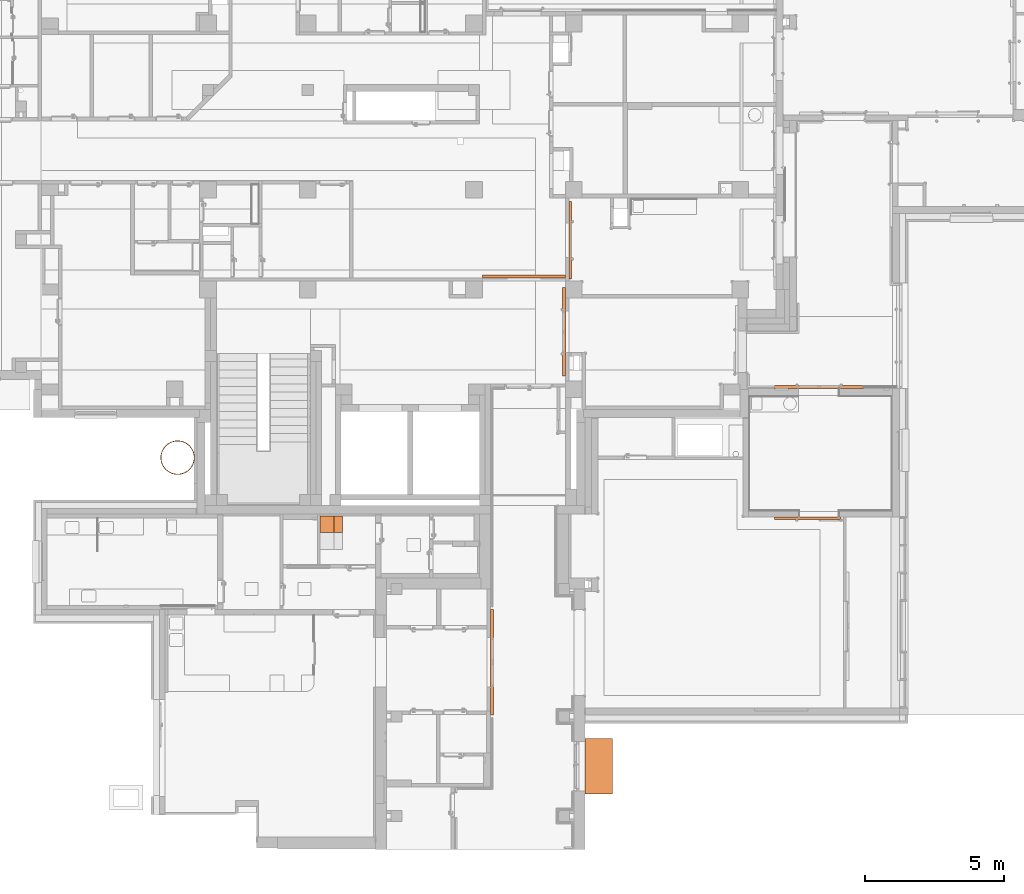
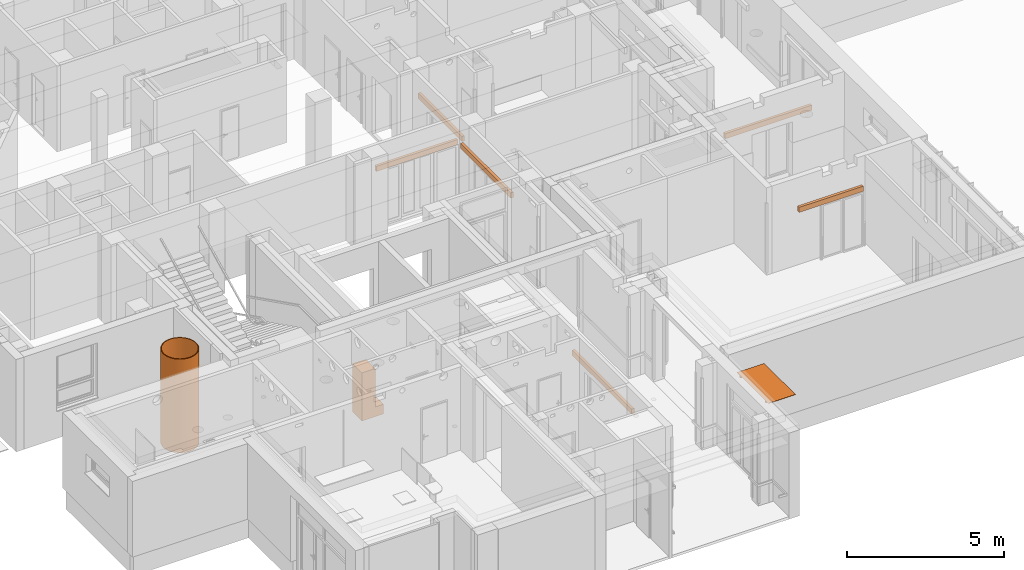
# One storey, part 138 of 140: 9 proxies, 1 element without a shape of its own.
"""IFC4 building model written with IfcOpenShell, lengths in metres."""

import ifcopenshell
import ifcopenshell.guid

model = None  # the IFC model being written
_history = None  # IfcOwnerHistory: only IFC2X3 demands one
_inside = {}  # id of a spatial element -> (the spatial element, [elements in it])
_under = {}  # id of a project, library or spatial element -> (it, [spatial elements below it])
_declared = {}  # id of a project -> (the project, [libraries it declares])
_typed = {}  # id of a type object -> (the type object, [elements of that type])
_made_of = {}  # id of a material, layer set ... -> (it, [elements and type objects made of it])


def new_model(schema):
    """Start an empty IFC model of exactly this schema.

    Asked for "IFC4X3", IfcOpenShell would pick the latest addendum, in which some entities
    have other attributes; the version numbers below select the first issue.
    IFC2X3 requires an IfcOwnerHistory on every rooted entity: one is made here for all.
    """
    global model, _history
    if schema == "IFC4X3":
        model = ifcopenshell.file(schema_version=(4, 3, 0, 0))
    else:
        model = ifcopenshell.file(schema=schema)
    _inside.clear()
    _under.clear()
    _declared.clear()
    _typed.clear()
    _made_of.clear()
    _history = None
    if model.schema == "IFC2X3":
        org = make("IfcOrganization", Name="unknown")
        user = make(
            "IfcPersonAndOrganization",
            ThePerson=make("IfcPerson", FamilyName="unknown"),
            TheOrganization=org,
        )
        app = make(
            "IfcApplication",
            ApplicationDeveloper=org,
            Version="unknown",
            ApplicationFullName="unknown",
            ApplicationIdentifier="unknown",
        )
        _history = make(
            "IfcOwnerHistory",
            OwningUser=user,
            OwningApplication=app,
            ChangeAction="ADDED",
            CreationDate=0,
        )
    return model


def make(cls, **values):
    """One entity of the class cls with the attributes given. An attribute that is None is left unset."""
    return model.create_entity(
        cls, **{name: value for name, value in values.items() if value is not None}
    )


def entity(cls, *values):
    """Any entity or typed value of the class cls, its attributes in the order of the schema. None: left unset."""
    e = model.create_entity(cls)
    for i, value in enumerate(values):
        if value is not None:
            e[i] = value
    return e


def rooted(cls, **values):
    """An entity with a GlobalId (a new one), such as an element, a storey or a relation."""
    return make(cls, GlobalId=ifcopenshell.guid.new(), OwnerHistory=_history, **values)


def si_unit(unit_type, name, prefix=None):
    """IfcSIUnit, for example si_unit("LENGTHUNIT", "METRE", prefix="MILLI")."""
    return make("IfcSIUnit", UnitType=unit_type, Prefix=prefix, Name=name)


def converted_unit(unit_type, name, factor, base, dimensions=None, offset=None):
    """IfcConversionBasedUnit, such as the inch: factor (a typed value) times the base unit."""
    return make(
        "IfcConversionBasedUnit"
        if offset is None
        else "IfcConversionBasedUnitWithOffset",
        ConversionOffset=offset,
        Dimensions=None
        if dimensions is None
        else entity("IfcDimensionalExponents", *dimensions),
        UnitType=unit_type,
        Name=name,
        ConversionFactor=make(
            "IfcMeasureWithUnit", ValueComponent=factor, UnitComponent=base
        ),
    )


def derived_unit(unit_type, elements):
    """IfcDerivedUnit: a product of units, each with its exponent."""
    return make(
        "IfcDerivedUnit",
        Elements=[
            make("IfcDerivedUnitElement", Unit=unit, Exponent=power)
            for unit, power in elements
        ],
        UnitType=unit_type,
    )


def assignment(units):
    """IfcUnitAssignment: the units of a project."""
    return None if units is None else make("IfcUnitAssignment", Units=units)


def point(xyz):
    """IfcCartesianPoint."""
    return None if xyz is None else make("IfcCartesianPoint", Coordinates=xyz)


def direction(xyz):
    """IfcDirection."""
    return None if xyz is None else make("IfcDirection", DirectionRatios=xyz)


def frame(location, z_axis=None, x_axis=None):
    """IfcAxis2Placement3D, a coordinate frame: its origin and axes. An axis left out is left unset."""
    return make(
        "IfcAxis2Placement3D",
        Location=point(location),
        Axis=direction(z_axis),
        RefDirection=direction(x_axis),
    )


def origin():
    """The frame at (0, 0, 0) with its axes left unset."""
    return frame((0.0, 0.0, 0.0))


def origin_with_axes():
    """The frame at (0, 0, 0) with the z axis (0, 0, 1) and the x axis (1, 0, 0) written out."""
    return frame((0.0, 0.0, 0.0), z_axis=(0.0, 0.0, 1.0), x_axis=(1.0, 0.0, 0.0))


def place(relative_to, where):
    """IfcLocalPlacement: puts the frame where relative to a parent placement (None: the world)."""
    return make(
        "IfcLocalPlacement", PlacementRelTo=relative_to, RelativePlacement=where
    )


def context(
    kind, dimensions, precision=None, world=None, true_north=None, identifier=None
):
    """IfcGeometricRepresentationContext, for example the 3D "Model" context."""
    return make(
        "IfcGeometricRepresentationContext",
        ContextIdentifier=identifier,
        ContextType=kind,
        CoordinateSpaceDimension=dimensions,
        Precision=precision,
        WorldCoordinateSystem=world,
        TrueNorth=true_north,
    )


def subcontext(parent, identifier, kind, view, scale=None):
    """IfcGeometricRepresentationSubContext, for example "Body" below "Model"."""
    return make(
        "IfcGeometricRepresentationSubContext",
        ContextIdentifier=identifier,
        ContextType=kind,
        ParentContext=parent,
        TargetScale=scale,
        TargetView=view,
    )


def project(units=None, contexts=None):
    """IfcProject with its units and contexts."""
    return rooted(
        "IfcProject",
        Name="project",
        RepresentationContexts=contexts,
        UnitsInContext=assignment(units),
    )


def spatial(cls, under=None, at=None, **own):
    """A site, building, storey or space (cls), placed at a placement, below another one or the project."""
    s = rooted(cls, ObjectPlacement=at, **own)
    if under is not None:
        _under.setdefault(under.id(), (under, []))[1].append(s)
    return s


def faces_of(points, faces, orient=None, outer=None):
    """IfcFace entities. A face is a list of loops; a loop is a list of indices into points, from 0.

    orient and outer hold one flag for each loop. By default every Orientation is true, the
    first loop of a face is its IfcFaceOuterBound and the others are IfcFaceBound.
    """
    made = []
    for i, loops in enumerate(faces):
        bounds = []
        for j, loop in enumerate(loops):
            is_outer = j == 0 if outer is None else outer[i][j]
            bounds.append(
                make(
                    "IfcFaceOuterBound" if is_outer else "IfcFaceBound",
                    Bound=make("IfcPolyLoop", Polygon=[points[k] for k in loop]),
                    Orientation=True if orient is None else orient[i][j],
                )
            )
        made.append(make("IfcFace", Bounds=bounds))
    return made


def faceted_brep(points, faces, orient=None, outer=None, voids=None):
    """IfcFacetedBrep: a solid bounded by flat faces; with voids (closed shells), ...WithVoids."""
    shared = [point(p) for p in points]
    hull = make("IfcClosedShell", CfsFaces=faces_of(shared, faces, orient, outer))
    if voids is None:
        return make("IfcFacetedBrep", Outer=hull)
    return make(
        "IfcFacetedBrepWithVoids",
        Outer=hull,
        Voids=[
            make(cls, CfsFaces=faces_of(shared, fs, o, b)) for cls, fs, o, b in voids
        ],
    )


def shape(context_of_items, identifier, shape_type, items):
    """IfcShapeRepresentation: the items that make up one representation, for example the "Body"."""
    return make(
        "IfcShapeRepresentation",
        ContextOfItems=context_of_items,
        RepresentationIdentifier=identifier,
        RepresentationType=shape_type,
        Items=items,
    )


def source(mapping_origin, context_of_items, identifier, shape_type, items):
    """IfcRepresentationMap: a shape defined once, which mapped items show again and again."""
    return make(
        "IfcRepresentationMap",
        MappingOrigin=mapping_origin,
        MappedRepresentation=shape(context_of_items, identifier, shape_type, items),
    )


def transform(
    local_origin,
    x_axis=None,
    y_axis=None,
    z_axis=None,
    scale=None,
    scale2=None,
    scale3=None,
    uniform=True,
):
    """IfcCartesianTransformationOperator3D, or its non-uniform kind. x_axis, y_axis, z_axis: its Axis1, 2, 3."""
    if uniform:
        return make(
            "IfcCartesianTransformationOperator3D",
            Axis1=direction(x_axis),
            Axis2=direction(y_axis),
            LocalOrigin=point(local_origin),
            Scale=scale,
            Axis3=direction(z_axis),
        )
    return make(
        "IfcCartesianTransformationOperator3DnonUniform",
        Axis1=direction(x_axis),
        Axis2=direction(y_axis),
        LocalOrigin=point(local_origin),
        Scale=scale,
        Axis3=direction(z_axis),
        Scale2=scale2,
        Scale3=scale3,
    )


def mapped(mapping_source, mapping_target):
    """IfcMappedItem: shows the shape of a source again, moved by a transform."""
    return make(
        "IfcMappedItem", MappingSource=mapping_source, MappingTarget=mapping_target
    )


def material(Name=None, Category=None):
    """IfcMaterial."""
    return make("IfcMaterial", Name=Name, Category=Category)


def made_of(thing, what):
    """Note that an element or type object is made of a material, layer set ...; save() writes the relation."""
    if what is not None:
        _made_of.setdefault(what.id(), (what, []))[1].append(thing)
    return thing


def element(
    cls,
    number,
    at=None,
    inside=None,
    cuts=None,
    type_object=None,
    material=None,
    context=None,
    identifier="Body",
    shape_type=None,
    held_by="IfcProductDefinitionShape",
    body=None,
    shapes=None,
    **own,
):
    """One element of the class cls, such as IfcWall. Its Tag is "e" and its number.

    at: its placement. inside: the storey or other place that contains it. cuts: it is an
    opening in that element (IfcRelVoidsElement). A single representation is given by context,
    identifier, shape_type and body (its items); several are given by shapes. held_by: the class
    of the entity that holds the representations. save() writes the other relations.
    """
    e = rooted(cls, Tag="e%d" % number, ObjectPlacement=at, **own)
    if body is not None:
        shapes = [shape(context, identifier, shape_type, body)]
    if shapes is not None:
        e.Representation = make(held_by, Representations=shapes)
    if inside is not None:
        _inside.setdefault(inside.id(), (inside, []))[1].append(e)
    if cuts is not None:
        rooted(
            "IfcRelVoidsElement", RelatingBuildingElement=cuts, RelatedOpeningElement=e
        )
    if type_object is not None:
        _typed.setdefault(type_object.id(), (type_object, []))[1].append(e)
    return made_of(e, material)


def aggregate(whole, parts):
    """IfcRelAggregates: a whole, such as a stair, and the parts it consists of."""
    return rooted("IfcRelAggregates", RelatingObject=whole, RelatedObjects=parts)


def save(model, path):
    """Write the relations noted so far, then the file.

    IfcRelAggregates (storeys below a building ...), IfcRelContainedInSpatialStructure (elements
    in a storey), IfcRelDefinesByType, IfcRelAssociatesMaterial and IfcRelDeclares: one each for
    every whole, place, type object, material and project.
    """
    for whole, parts in _under.values():
        aggregate(whole, parts)
    for where, things in _inside.values():
        rooted(
            "IfcRelContainedInSpatialStructure",
            RelatedElements=things,
            RelatingStructure=where,
        )
    for kind, things in _typed.values():
        rooted("IfcRelDefinesByType", RelatedObjects=things, RelatingType=kind)
    for what, things in _made_of.values():
        rooted("IfcRelAssociatesMaterial", RelatedObjects=things, RelatingMaterial=what)
    for by, libraries in _declared.values():
        rooted("IfcRelDeclares", RelatingContext=by, RelatedDefinitions=libraries)
    model.write(path)


model = new_model("IFC4")

# Units and contexts
model_context = context("Model", 3, precision=1e-05, world=origin())
body_context = subcontext(model_context, "Body", "Model", "MODEL_VIEW")
ifc_project = project(units=[si_unit("LENGTHUNIT", "METRE"), si_unit("AREAUNIT", "SQUARE_METRE"), si_unit("VOLUMEUNIT", "CUBIC_METRE"), si_unit("MASSUNIT", "GRAM", prefix="KILO"), converted_unit("PLANEANGLEUNIT", "DEGREE", entity("IfcPlaneAngleMeasure", 0.0174532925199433), si_unit("PLANEANGLEUNIT", "RADIAN"), dimensions=[0, 0, 0, 0, 0, 0, 0]), derived_unit("THERMALTRANSMITTANCEUNIT", [(si_unit("POWERUNIT", "WATT"), 1), (si_unit("THERMODYNAMICTEMPERATUREUNIT", "KELVIN"), -1), (si_unit("LENGTHUNIT", "METRE"), -2)]), derived_unit("VOLUMETRICFLOWRATEUNIT", [(si_unit("LENGTHUNIT", "METRE"), 3), (converted_unit("TIMEUNIT", "hour", entity("IfcTimeMeasure", 3600.0), si_unit("TIMEUNIT", "SECOND"), dimensions=[0, 0, 1, 0, 0, 0, 0]), -1), (si_unit("LENGTHUNIT", "METRE"), -1)])], contexts=[model_context])

# Site, building, storey
site_placement = place(None, origin())
site = spatial("IfcSite", under=ifc_project, at=site_placement, Name="3. ASŘ", CompositionType="ELEMENT")
building_placement = place(site_placement, origin())
building = spatial("IfcBuilding", under=site, at=building_placement, Name="Pavilon C", CompositionType="ELEMENT")
storey_placement = place(building_placement, origin())
storey = spatial("IfcBuildingStorey", under=building, at=storey_placement, Name="Půdorys 1.NP", CompositionType="ELEMENT", Elevation=0.0)

# Proxies
shared_shape = source(origin_with_axes(), body_context, "Body", "Brep", [
    faceted_brep([(0.900000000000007, 2.0, 0.08), (1.45519152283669e-14, 2.0, 0.08), (1.45519152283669e-14, 0.0, 0.08), (0.900000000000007, 0.0, 0.08), (1.45519152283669e-14, 2.0, 0.092), (0.900000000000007, 2.0, 0.092), (0.900000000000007, 0.0, 0.092), (1.45519152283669e-14, 0.0, 0.092)], [[[0, 1, 2, 3]], [[4, 5, 6, 7]], [[1, 0, 5, 4]], [[2, 1, 4, 7]], [[3, 2, 7, 6]], [[0, 3, 6, 5]]], orient=[[False], [False], [False], [False], [False], [False]]),
    faceted_brep([(0.77, 0.170000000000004, 0.0), (0.77, 0.230000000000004, 0.0), (7.27595761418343e-15, 0.230000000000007, 0.0), (7.27595761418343e-15, 0.170000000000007, 0.0), (0.77, 0.230000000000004, 0.08), (0.77, 0.170000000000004, 0.08), (7.27595761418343e-15, 0.170000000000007, 0.08), (7.27595761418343e-15, 0.230000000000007, 0.08)], [[[0, 1, 2, 3]], [[4, 5, 6, 7]], [[1, 0, 5, 4]], [[2, 1, 4, 7]], [[3, 2, 7, 6]], [[0, 3, 6, 5]]], orient=[[False], [False], [False], [False], [False], [False]]),
    faceted_brep([(0.77, 1.83, 0.0), (7.27595761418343e-15, 1.83, 0.0), (7.27595761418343e-15, 1.77, 0.0), (0.77, 1.77, 0.0), (0.77, 1.77, 0.08), (7.27595761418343e-15, 1.77, 0.08), (7.27595761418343e-15, 1.83, 0.08), (0.77, 1.83, 0.08)], [[[0, 1, 2, 3]], [[4, 5, 6, 7]], [[3, 4, 7, 0]], [[2, 5, 4, 3]], [[1, 6, 5, 2]], [[0, 7, 6, 1]]], orient=[[False], [False], [False], [False], [False], [False]]),
])
proxy_1_placement = place(storey_placement, frame((44.35, -14.6, 2.97), z_axis=(0.0, 0.0, 1.0), x_axis=(1.11111111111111, 0.0, 0.0)))
element("IfcBuildingElementProxy", 1, at=proxy_1_placement, inside=storey, Name="STŘÍŠKA NAD VCHODEM", context=body_context, shape_type="MappedRepresentation", body=[
    mapped(shared_shape, transform((0.0, 0.0, 0.0), x_axis=(1.0, 0.0, 0.0), y_axis=(0.0, 1.0, 0.0), z_axis=(0.0, 0.0, 1.0), scale=1.11111111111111, scale2=1.0, scale3=1.0, uniform=False)),
])
ifc_material_1 = material(Name="VĚTRACÍ KOMÍN")
proxy_2_placement = place(storey_placement, frame((29.0400003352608, -3.07999999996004, -0.65)))
element("IfcBuildingElementProxy", 2, at=proxy_2_placement, inside=storey, material=ifc_material_1, context=body_context, shape_type="Brep", body=[
    faceted_brep([(0.0254837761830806, 0.790201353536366, 0.0), (0.0143783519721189, 0.747206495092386, 0.0), (0.0064042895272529, 0.703522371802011, 0.0), (0.00160316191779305, 0.65937673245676, 0.0), (4.54747350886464e-16, 0.614999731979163, 0.0), (0.00160316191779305, 0.570622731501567, 0.0), (0.0064042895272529, 0.526477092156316, 0.0), (0.0143783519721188, 0.482792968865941, 0.0), (0.0254837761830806, 0.439798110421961, 0.0), (0.039662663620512, 0.39771667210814, 0.0), (0.0568410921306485, 0.356768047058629, 0.0), (0.0769295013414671, 0.317165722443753, 0.0), (0.0998231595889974, 0.279116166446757, 0.0), (0.125402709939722, 0.242817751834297, 0.0), (0.153534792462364, 0.208459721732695, 0.0), (0.184072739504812, 0.176221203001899, 0.0), (0.216857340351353, 0.146270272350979, 0.0), (0.251717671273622, 0.118763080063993, 0.0), (0.288471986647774, 0.0938430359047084, 0.0), (0.326928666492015, 0.0716400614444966, 0.0), (0.366887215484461, 0.0522699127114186, 0.0), (0.408139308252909, 0.0358335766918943, 0.0), (0.450469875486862, 0.0224167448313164, 0.0), (0.493658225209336, 0.0120893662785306, 0.0), (0.537479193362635, 0.00490528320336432, 0.0), (0.581704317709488, 0.00090195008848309, 0.0), (0.62610302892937, 0.000100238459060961, 0.0), (0.670443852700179, 0.00250432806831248, 0.0), (0.714495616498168, 0.00810168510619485, 0.0), (0.758028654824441, 0.0168631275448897, 0.0), (0.800816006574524, 0.0287429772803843, 0.0), (0.842634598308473, 0.0436792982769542, 0.0), (0.883266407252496, 0.0615942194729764, 0.0), (0.922499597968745, 0.0823943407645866, 0.0), (0.960129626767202, 0.105971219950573, 0.0), (0.995960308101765, 0.132201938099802, 0.0), (1.02980483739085, 0.160949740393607, 0.0), (1.06148676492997, 0.192064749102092, 0.0), (1.09084091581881, 0.225384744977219, 0.0), (1.11771425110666, 0.260736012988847, 0.0), (1.14196666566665, 0.297934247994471, 0.0), (1.16347171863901, 0.33678551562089, 0.0), (1.18211729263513, 0.377087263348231, 0.0), (1.19780617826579, 0.418629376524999, 0.0), (1.21045658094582, 0.461195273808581, 0.0), (1.22000254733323, 0.504563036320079, 0.0), (1.22639430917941, 0.548506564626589, 0.0), (1.2295985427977, 0.592796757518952, 0.0), (1.22999946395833, 0.614999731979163, 0.0), (1.2295985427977, 0.637202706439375, 0.0), (1.22639430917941, 0.681492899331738, 0.0), (1.22000254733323, 0.725436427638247, 0.0), (1.21045658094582, 0.768804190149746, 0.0), (1.19780617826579, 0.811370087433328, 0.0), (1.18211729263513, 0.852912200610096, 0.0), (1.16347171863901, 0.893213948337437, 0.0), (1.14196666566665, 0.932065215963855, 0.0), (1.11771425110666, 0.96926345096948, 0.0), (1.09084091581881, 1.00461471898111, 0.0), (1.06148676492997, 1.03793471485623, 0.0), (1.02980483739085, 1.06904972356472, 0.0), (0.995960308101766, 1.09779752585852, 0.0), (0.960129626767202, 1.12402824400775, 0.0), (0.922499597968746, 1.14760512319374, 0.0), (0.883266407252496, 1.16840524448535, 0.0), (0.842634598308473, 1.18632016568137, 0.0), (0.800816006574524, 1.20125648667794, 0.0), (0.758028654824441, 1.21313633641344, 0.0), (0.714495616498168, 1.22189777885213, 0.0), (0.67044385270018, 1.22749513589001, 0.0), (0.62610302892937, 1.22989922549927, 0.0), (0.581704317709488, 1.22909751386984, 0.0), (0.537479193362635, 1.22509418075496, 0.0), (0.493658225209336, 1.2179100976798, 0.0), (0.450469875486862, 1.20758271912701, 0.0), (0.408139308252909, 1.19416588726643, 0.0), (0.366887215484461, 1.17772955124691, 0.0), (0.326928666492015, 1.15835940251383, 0.0), (0.288471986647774, 1.13615642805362, 0.0), (0.251717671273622, 1.11123638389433, 0.0), (0.216857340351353, 1.08372919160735, 0.0), (0.184072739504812, 1.05377826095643, 0.0), (0.153534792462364, 1.02153974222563, 0.0), (0.125402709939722, 0.987181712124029, 0.0), (0.0998231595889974, 0.95088329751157, 0.0), (0.0769295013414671, 0.912833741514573, 0.0), (0.0568410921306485, 0.873231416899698, 0.0), (0.039662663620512, 0.832282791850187, 0.0), (1.13665376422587, 0.886896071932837, 0.0), (1.15530944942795, 0.847628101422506, 0.0), (1.17101415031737, 0.807089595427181, 0.0), (1.18368209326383, 0.765501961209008, 0.0), (1.19324409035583, 0.723092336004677, 0.0), (1.19964791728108, 0.680092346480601, 0.0), (1.20285859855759, 0.636736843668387, 0.0), (1.20326034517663, 0.614999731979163, 0.0), (1.20285859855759, 0.593262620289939, 0.0), (1.19964791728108, 0.549907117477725, 0.0), (1.19324409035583, 0.506907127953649, 0.0), (1.18368209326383, 0.464497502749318, 0.0), (1.17101415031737, 0.422909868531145, 0.0), (1.15530944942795, 0.382371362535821, 0.0), (1.13665376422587, 0.34310339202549, 0.0), (1.11514898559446, 0.305320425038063, 0.0), (1.09091256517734, 0.269228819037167, 0.0), (1.06407687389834, 0.235025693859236, 0.0), (1.03478847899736, 0.20289785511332, 0.0), (1.00320734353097, 0.173020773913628, 0.0), (0.969505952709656, 0.14555762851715, 0.0), (0.93386837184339, 0.120658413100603, 0.0), (0.896489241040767, 0.0984591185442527, 0.0), (0.85757271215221, 0.0790809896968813, 0.0), (0.817331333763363, 0.0626298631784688, 0.0), (0.775984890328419, 0.0491955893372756, 0.0), (0.733759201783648, 0.0388515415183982, 0.0), (0.690884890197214, 0.0316542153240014, 0.0), (0.647596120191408, 0.0276429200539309, 0.0), (0.604129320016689, 0.0268395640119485, 0.0), (0.560721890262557, 0.0292485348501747, 0.0), (0.51761090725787, 0.0348566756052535, 0.0), (0.475031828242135, 0.0436333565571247, 0.0), (0.43321720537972, 0.0555306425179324, 0.0), (0.392395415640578, 0.0704835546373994, 0.0), (0.352789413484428, 0.0884104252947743, 0.0), (0.314615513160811, 0.109213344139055, 0.0), (0.278082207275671, 0.132778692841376, 0.0), (0.243389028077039, 0.158977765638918, 0.0), (0.210725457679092, 0.187667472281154, 0.0), (0.180269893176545, 0.21869111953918, 0.0), (0.152188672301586, 0.25187926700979, 0.0), (0.126635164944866, 0.287050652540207, 0.0), (0.103748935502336, 0.324013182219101, 0.0), (0.0836549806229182, 0.362564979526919, 0.0), (0.0664630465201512, 0.402495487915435, 0.0), (0.0522670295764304, 0.443586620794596, 0.0), (0.0411444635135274, 0.485613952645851, 0.0), (0.0331560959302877, 0.528347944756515, 0.0), (0.0283455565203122, 0.571555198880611, 0.0), (0.0267391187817, 0.614999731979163, 0.0), (0.0283455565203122, 0.658444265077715, 0.0), (0.0331560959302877, 0.701651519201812, 0.0), (0.0411444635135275, 0.744385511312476, 0.0), (0.0522670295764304, 0.786412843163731, 0.0), (0.0664630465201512, 0.827503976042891, 0.0), (0.0836549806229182, 0.867434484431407, 0.0), (0.103748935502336, 0.905986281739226, 0.0), (0.126635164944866, 0.942948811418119, 0.0), (0.152188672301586, 0.978120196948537, 0.0), (0.180269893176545, 1.01130834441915, 0.0), (0.210725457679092, 1.04233199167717, 0.0), (0.243389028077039, 1.07102169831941, 0.0), (0.27808220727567, 1.09722077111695, 0.0), (0.314615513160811, 1.12078611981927, 0.0), (0.352789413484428, 1.14158903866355, 0.0), (0.392395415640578, 1.15951590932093, 0.0), (0.43321720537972, 1.17446882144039, 0.0), (0.475031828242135, 1.1863661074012, 0.0), (0.517610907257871, 1.19514278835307, 0.0), (0.560721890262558, 1.20075092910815, 0.0), (0.604129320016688, 1.20315989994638, 0.0), (0.647596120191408, 1.2023565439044, 0.0), (0.690884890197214, 1.19834524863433, 0.0), (0.733759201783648, 1.19114792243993, 0.0), (0.775984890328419, 1.18080387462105, 0.0), (0.817331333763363, 1.16736960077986, 0.0), (0.85757271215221, 1.15091847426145, 0.0), (0.896489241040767, 1.13154034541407, 0.0), (0.93386837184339, 1.10934105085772, 0.0), (0.969505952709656, 1.08444183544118, 0.0), (1.00320734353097, 1.0569786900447, 0.0), (1.03478847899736, 1.02710160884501, 0.0), (1.06407687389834, 0.994973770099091, 0.0), (1.09091256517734, 0.96077064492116, 0.0), (1.11514898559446, 0.924679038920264, 0.0), (1.22999946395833, 0.614999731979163, 3.65), (1.2295985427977, 0.637202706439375, 3.65), (4.54747350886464e-16, 0.614999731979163, 3.65), (0.00160316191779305, 0.570622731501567, 3.65), (0.0064042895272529, 0.526477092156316, 3.65), (0.0143783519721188, 0.482792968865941, 3.65), (0.0254837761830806, 0.439798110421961, 3.65), (0.039662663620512, 0.39771667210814, 3.65), (0.0568410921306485, 0.356768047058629, 3.65), (0.0769295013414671, 0.317165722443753, 3.65), (0.0998231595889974, 0.279116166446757, 3.65), (0.125402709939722, 0.242817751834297, 3.65), (0.153534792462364, 0.208459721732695, 3.65), (0.184072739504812, 0.176221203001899, 3.65), (0.216857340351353, 0.146270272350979, 3.65), (0.251717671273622, 0.118763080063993, 3.65), (0.288471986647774, 0.0938430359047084, 3.65), (0.326928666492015, 0.0716400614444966, 3.65), (0.366887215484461, 0.0522699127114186, 3.65), (0.408139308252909, 0.0358335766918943, 3.65), (0.450469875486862, 0.0224167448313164, 3.65), (0.493658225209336, 0.0120893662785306, 3.65), (0.537479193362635, 0.00490528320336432, 3.65), (0.581704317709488, 0.00090195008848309, 3.65), (0.62610302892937, 0.000100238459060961, 3.65), (0.670443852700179, 0.00250432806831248, 3.65), (0.714495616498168, 0.00810168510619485, 3.65), (0.758028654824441, 0.0168631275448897, 3.65), (0.800816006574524, 0.0287429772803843, 3.65), (0.842634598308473, 0.0436792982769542, 3.65), (0.883266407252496, 0.0615942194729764, 3.65), (0.922499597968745, 0.0823943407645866, 3.65), (0.960129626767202, 0.105971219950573, 3.65), (0.995960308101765, 0.132201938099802, 3.65), (1.02980483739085, 0.160949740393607, 3.65), (1.06148676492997, 0.192064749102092, 3.65), (1.09084091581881, 0.225384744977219, 3.65), (1.11771425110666, 0.260736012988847, 3.65), (1.14196666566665, 0.297934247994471, 3.65), (1.16347171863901, 0.33678551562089, 3.65), (1.18211729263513, 0.377087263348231, 3.65), (1.19780617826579, 0.418629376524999, 3.65), (1.21045658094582, 0.461195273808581, 3.65), (1.22000254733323, 0.504563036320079, 3.65), (1.22639430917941, 0.548506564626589, 3.65), (1.2295985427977, 0.592796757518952, 3.65), (1.22639430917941, 0.681492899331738, 3.65), (1.22000254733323, 0.725436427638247, 3.65), (1.21045658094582, 0.768804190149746, 3.65), (1.19780617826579, 0.811370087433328, 3.65), (1.18211729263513, 0.852912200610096, 3.65), (1.16347171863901, 0.893213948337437, 3.65), (1.14196666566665, 0.932065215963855, 3.65), (1.11771425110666, 0.96926345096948, 3.65), (1.09084091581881, 1.00461471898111, 3.65), (1.06148676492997, 1.03793471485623, 3.65), (1.02980483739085, 1.06904972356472, 3.65), (0.995960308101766, 1.09779752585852, 3.65), (0.960129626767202, 1.12402824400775, 3.65), (0.922499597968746, 1.14760512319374, 3.65), (0.883266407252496, 1.16840524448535, 3.65), (0.842634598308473, 1.18632016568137, 3.65), (0.800816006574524, 1.20125648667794, 3.65), (0.758028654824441, 1.21313633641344, 3.65), (0.714495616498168, 1.22189777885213, 3.65), (0.67044385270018, 1.22749513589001, 3.65), (0.62610302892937, 1.22989922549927, 3.65), (0.581704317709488, 1.22909751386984, 3.65), (0.537479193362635, 1.22509418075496, 3.65), (0.493658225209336, 1.2179100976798, 3.65), (0.450469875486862, 1.20758271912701, 3.65), (0.408139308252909, 1.19416588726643, 3.65), (0.366887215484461, 1.17772955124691, 3.65), (0.326928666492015, 1.15835940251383, 3.65), (0.288471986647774, 1.13615642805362, 3.65), (0.251717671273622, 1.11123638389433, 3.65), (0.216857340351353, 1.08372919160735, 3.65), (0.184072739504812, 1.05377826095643, 3.65), (0.153534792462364, 1.02153974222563, 3.65), (0.125402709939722, 0.987181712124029, 3.65), (0.0998231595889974, 0.95088329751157, 3.65), (0.0769295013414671, 0.912833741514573, 3.65), (0.0568410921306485, 0.873231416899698, 3.65), (0.039662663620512, 0.832282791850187, 3.65), (0.0254837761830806, 0.790201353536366, 3.65), (0.0143783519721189, 0.747206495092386, 3.65), (0.0064042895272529, 0.703522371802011, 3.65), (0.00160316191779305, 0.65937673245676, 3.65), (1.20326034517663, 0.614999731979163, 3.65), (1.20285859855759, 0.593262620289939, 3.65), (0.0267391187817, 0.614999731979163, 3.65), (0.0283455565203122, 0.658444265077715, 3.65), (0.0331560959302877, 0.701651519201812, 3.65), (0.0411444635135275, 0.744385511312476, 3.65), (0.0522670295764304, 0.786412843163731, 3.65), (0.0664630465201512, 0.827503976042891, 3.65), (0.0836549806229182, 0.867434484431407, 3.65), (0.103748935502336, 0.905986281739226, 3.65), (0.126635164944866, 0.942948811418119, 3.65), (0.152188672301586, 0.978120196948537, 3.65), (0.180269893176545, 1.01130834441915, 3.65), (0.210725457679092, 1.04233199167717, 3.65), (0.243389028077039, 1.07102169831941, 3.65), (0.27808220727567, 1.09722077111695, 3.65), (0.314615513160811, 1.12078611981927, 3.65), (0.352789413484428, 1.14158903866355, 3.65), (0.392395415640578, 1.15951590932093, 3.65), (0.43321720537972, 1.17446882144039, 3.65), (0.475031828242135, 1.1863661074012, 3.65), (0.517610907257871, 1.19514278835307, 3.65), (0.560721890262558, 1.20075092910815, 3.65), (0.604129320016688, 1.20315989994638, 3.65), (0.647596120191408, 1.2023565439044, 3.65), (0.690884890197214, 1.19834524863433, 3.65), (0.733759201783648, 1.19114792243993, 3.65), (0.775984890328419, 1.18080387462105, 3.65), (0.817331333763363, 1.16736960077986, 3.65), (0.85757271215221, 1.15091847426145, 3.65), (0.896489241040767, 1.13154034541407, 3.65), (0.93386837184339, 1.10934105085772, 3.65), (0.969505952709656, 1.08444183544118, 3.65), (1.00320734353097, 1.0569786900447, 3.65), (1.03478847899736, 1.02710160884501, 3.65), (1.06407687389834, 0.994973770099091, 3.65), (1.09091256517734, 0.96077064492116, 3.65), (1.11514898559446, 0.924679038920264, 3.65), (1.13665376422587, 0.886896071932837, 3.65), (1.15530944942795, 0.847628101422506, 3.65), (1.17101415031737, 0.807089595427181, 3.65), (1.18368209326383, 0.765501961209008, 3.65), (1.19324409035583, 0.723092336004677, 3.65), (1.19964791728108, 0.680092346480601, 3.65), (1.20285859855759, 0.636736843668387, 3.65), (1.19964791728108, 0.549907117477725, 3.65), (1.19324409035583, 0.506907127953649, 3.65), (1.18368209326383, 0.464497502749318, 3.65), (1.17101415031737, 0.422909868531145, 3.65), (1.15530944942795, 0.382371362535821, 3.65), (1.13665376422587, 0.34310339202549, 3.65), (1.11514898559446, 0.305320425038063, 3.65), (1.09091256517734, 0.269228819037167, 3.65), (1.06407687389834, 0.235025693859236, 3.65), (1.03478847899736, 0.20289785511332, 3.65), (1.00320734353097, 0.173020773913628, 3.65), (0.969505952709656, 0.14555762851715, 3.65), (0.93386837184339, 0.120658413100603, 3.65), (0.896489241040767, 0.0984591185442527, 3.65), (0.85757271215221, 0.0790809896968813, 3.65), (0.817331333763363, 0.0626298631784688, 3.65), (0.775984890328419, 0.0491955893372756, 3.65), (0.733759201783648, 0.0388515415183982, 3.65), (0.690884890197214, 0.0316542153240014, 3.65), (0.647596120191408, 0.0276429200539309, 3.65), (0.604129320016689, 0.0268395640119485, 3.65), (0.560721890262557, 0.0292485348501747, 3.65), (0.51761090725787, 0.0348566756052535, 3.65), (0.475031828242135, 0.0436333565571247, 3.65), (0.43321720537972, 0.0555306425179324, 3.65), (0.392395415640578, 0.0704835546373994, 3.65), (0.352789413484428, 0.0884104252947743, 3.65), (0.314615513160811, 0.109213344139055, 3.65), (0.278082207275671, 0.132778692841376, 3.65), (0.243389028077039, 0.158977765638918, 3.65), (0.210725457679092, 0.187667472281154, 3.65), (0.180269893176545, 0.21869111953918, 3.65), (0.152188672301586, 0.25187926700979, 3.65), (0.126635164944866, 0.287050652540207, 3.65), (0.103748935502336, 0.324013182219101, 3.65), (0.0836549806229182, 0.362564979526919, 3.65), (0.0664630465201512, 0.402495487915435, 3.65), (0.0522670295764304, 0.443586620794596, 3.65), (0.0411444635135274, 0.485613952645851, 3.65), (0.0331560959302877, 0.528347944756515, 3.65), (0.0283455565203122, 0.571555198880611, 3.65)], [[[0, 1, 2, 3, 4, 5, 6, 7, 8, 9, 10, 11, 12, 13, 14, 15, 16, 17, 18, 19, 20, 21, 22, 23, 24, 25, 26, 27, 28, 29, 30, 31, 32, 33, 34, 35, 36, 37, 38, 39, 40, 41, 42, 43, 44, 45, 46, 47, 48, 49, 50, 51, 52, 53, 54, 55, 56, 57, 58, 59, 60, 61, 62, 63, 64, 65, 66, 67, 68, 69, 70, 71, 72, 73, 74, 75, 76, 77, 78, 79, 80, 81, 82, 83, 84, 85, 86, 87], [88, 89, 90, 91, 92, 93, 94, 95, 96, 97, 98, 99, 100, 101, 102, 103, 104, 105, 106, 107, 108, 109, 110, 111, 112, 113, 114, 115, 116, 117, 118, 119, 120, 121, 122, 123, 124, 125, 126, 127, 128, 129, 130, 131, 132, 133, 134, 135, 136, 137, 138, 139, 140, 141, 142, 143, 144, 145, 146, 147, 148, 149, 150, 151, 152, 153, 154, 155, 156, 157, 158, 159, 160, 161, 162, 163, 164, 165, 166, 167, 168, 169, 170, 171, 172, 173]], [[174, 175, 49, 48]], [[4, 176, 177, 5]], [[5, 177, 178, 6]], [[6, 178, 179, 7]], [[7, 179, 180, 8]], [[8, 180, 181, 9]], [[9, 181, 182, 10]], [[10, 182, 183, 11]], [[11, 183, 184, 12]], [[12, 184, 185, 13]], [[13, 185, 186, 14]], [[14, 186, 187, 15]], [[15, 187, 188, 16]], [[16, 188, 189, 17]], [[17, 189, 190, 18]], [[18, 190, 191, 19]], [[19, 191, 192, 20]], [[20, 192, 193, 21]], [[21, 193, 194, 22]], [[22, 194, 195, 23]], [[23, 195, 196, 24]], [[24, 196, 197, 25]], [[25, 197, 198, 26]], [[26, 198, 199, 27]], [[27, 199, 200, 28]], [[28, 200, 201, 29]], [[29, 201, 202, 30]], [[30, 202, 203, 31]], [[31, 203, 204, 32]], [[32, 204, 205, 33]], [[33, 205, 206, 34]], [[34, 206, 207, 35]], [[35, 207, 208, 36]], [[36, 208, 209, 37]], [[37, 209, 210, 38]], [[38, 210, 211, 39]], [[39, 211, 212, 40]], [[40, 212, 213, 41]], [[41, 213, 214, 42]], [[42, 214, 215, 43]], [[43, 215, 216, 44]], [[44, 216, 217, 45]], [[45, 217, 218, 46]], [[46, 218, 219, 47]], [[48, 47, 219, 174]], [[49, 175, 220, 50]], [[50, 220, 221, 51]], [[51, 221, 222, 52]], [[52, 222, 223, 53]], [[53, 223, 224, 54]], [[54, 224, 225, 55]], [[55, 225, 226, 56]], [[56, 226, 227, 57]], [[57, 227, 228, 58]], [[58, 228, 229, 59]], [[59, 229, 230, 60]], [[60, 230, 231, 61]], [[61, 231, 232, 62]], [[62, 232, 233, 63]], [[63, 233, 234, 64]], [[64, 234, 235, 65]], [[65, 235, 236, 66]], [[66, 236, 237, 67]], [[67, 237, 238, 68]], [[68, 238, 239, 69]], [[69, 239, 240, 70]], [[70, 240, 241, 71]], [[71, 241, 242, 72]], [[72, 242, 243, 73]], [[73, 243, 244, 74]], [[74, 244, 245, 75]], [[75, 245, 246, 76]], [[76, 246, 247, 77]], [[77, 247, 248, 78]], [[78, 248, 249, 79]], [[79, 249, 250, 80]], [[80, 250, 251, 81]], [[81, 251, 252, 82]], [[82, 252, 253, 83]], [[83, 253, 254, 84]], [[84, 254, 255, 85]], [[85, 255, 256, 86]], [[86, 256, 257, 87]], [[87, 257, 258, 0]], [[0, 258, 259, 1]], [[1, 259, 260, 2]], [[2, 260, 261, 3]], [[3, 261, 176, 4]], [[262, 263, 96, 95]], [[138, 264, 265, 139]], [[139, 265, 266, 140]], [[140, 266, 267, 141]], [[141, 267, 268, 142]], [[142, 268, 269, 143]], [[143, 269, 270, 144]], [[144, 270, 271, 145]], [[145, 271, 272, 146]], [[146, 272, 273, 147]], [[147, 273, 274, 148]], [[148, 274, 275, 149]], [[149, 275, 276, 150]], [[150, 276, 277, 151]], [[151, 277, 278, 152]], [[152, 278, 279, 153]], [[153, 279, 280, 154]], [[154, 280, 281, 155]], [[155, 281, 282, 156]], [[156, 282, 283, 157]], [[157, 283, 284, 158]], [[158, 284, 285, 159]], [[159, 285, 286, 160]], [[160, 286, 287, 161]], [[161, 287, 288, 162]], [[162, 288, 289, 163]], [[163, 289, 290, 164]], [[164, 290, 291, 165]], [[165, 291, 292, 166]], [[166, 292, 293, 167]], [[167, 293, 294, 168]], [[168, 294, 295, 169]], [[169, 295, 296, 170]], [[170, 296, 297, 171]], [[171, 297, 298, 172]], [[172, 298, 299, 173]], [[173, 299, 300, 88]], [[88, 300, 301, 89]], [[89, 301, 302, 90]], [[90, 302, 303, 91]], [[91, 303, 304, 92]], [[92, 304, 305, 93]], [[93, 305, 306, 94]], [[95, 94, 306, 262]], [[96, 263, 307, 97]], [[97, 307, 308, 98]], [[98, 308, 309, 99]], [[99, 309, 310, 100]], [[100, 310, 311, 101]], [[101, 311, 312, 102]], [[102, 312, 313, 103]], [[103, 313, 314, 104]], [[104, 314, 315, 105]], [[105, 315, 316, 106]], [[106, 316, 317, 107]], [[107, 317, 318, 108]], [[108, 318, 319, 109]], [[109, 319, 320, 110]], [[110, 320, 321, 111]], [[111, 321, 322, 112]], [[112, 322, 323, 113]], [[113, 323, 324, 114]], [[114, 324, 325, 115]], [[115, 325, 326, 116]], [[116, 326, 327, 117]], [[117, 327, 328, 118]], [[118, 328, 329, 119]], [[119, 329, 330, 120]], [[120, 330, 331, 121]], [[121, 331, 332, 122]], [[122, 332, 333, 123]], [[123, 333, 334, 124]], [[124, 334, 335, 125]], [[125, 335, 336, 126]], [[126, 336, 337, 127]], [[127, 337, 338, 128]], [[128, 338, 339, 129]], [[129, 339, 340, 130]], [[130, 340, 341, 131]], [[131, 341, 342, 132]], [[132, 342, 343, 133]], [[133, 343, 344, 134]], [[134, 344, 345, 135]], [[135, 345, 346, 136]], [[136, 346, 347, 137]], [[137, 347, 264, 138]], [[258, 257, 256, 255, 254, 253, 252, 251, 250, 249, 248, 247, 246, 245, 244, 243, 242, 241, 240, 239, 238, 237, 236, 235, 234, 233, 232, 231, 230, 229, 228, 227, 226, 225, 224, 223, 222, 221, 220, 175, 174, 219, 218, 217, 216, 215, 214, 213, 212, 211, 210, 209, 208, 207, 206, 205, 204, 203, 202, 201, 200, 199, 198, 197, 196, 195, 194, 193, 192, 191, 190, 189, 188, 187, 186, 185, 184, 183, 182, 181, 180, 179, 178, 177, 176, 261, 260, 259], [295, 294, 293, 292, 291, 290, 289, 288, 287, 286, 285, 284, 283, 282, 281, 280, 279, 278, 277, 276, 275, 274, 273, 272, 271, 270, 269, 268, 267, 266, 265, 264, 347, 346, 345, 344, 343, 342, 341, 340, 339, 338, 337, 336, 335, 334, 333, 332, 331, 330, 329, 328, 327, 326, 325, 324, 323, 322, 321, 320, 319, 318, 317, 316, 315, 314, 313, 312, 311, 310, 309, 308, 307, 263, 262, 306, 305, 304, 303, 302, 301, 300, 299, 298, 297, 296]]], orient=[[False, False], [False], [False], [False], [False], [False], [False], [False], [False], [False], [False], [False], [False], [False], [False], [False], [False], [False], [False], [False], [False], [False], [False], [False], [False], [False], [False], [False], [False], [False], [False], [False], [False], [False], [False], [False], [False], [False], [False], [False], [False], [False], [False], [False], [False], [False], [False], [False], [False], [False], [False], [False], [False], [False], [False], [False], [False], [False], [False], [False], [False], [False], [False], [False], [False], [False], [False], [False], [False], [False], [False], [False], [False], [False], [False], [False], [False], [False], [False], [False], [False], [False], [False], [False], [False], [False], [False], [False], [False], [False], [False], [False], [False], [False], [False], [False], [False], [False], [False], [False], [False], [False], [False], [False], [False], [False], [False], [False], [False], [False], [False], [False], [False], [False], [False], [False], [False], [False], [False], [False], [False], [False], [False], [False], [False], [False], [False], [False], [False], [False], [False], [False], [False], [False], [False], [False], [False], [False], [False], [False], [False], [False], [False], [False], [False], [False], [False], [False], [False], [False], [False], [False], [False], [False], [False], [False], [False], [False], [False], [False], [False], [False], [False], [False], [False], [False], [False], [False], [False], [False], [False], [False], [False], [False], [False], [False, False]]),
])
ifc_material_2 = material(Name="DVEŘNÍ POHON")
proxy_3_placement = place(storey_placement, frame((40.65, 4.025, 2.1)))
element("IfcBuildingElementProxy", 3, at=proxy_3_placement, inside=storey, material=ifc_material_2, context=body_context, shape_type="Brep", body=[
    faceted_brep([(0.0, 0.1, 0.0), (0.0, 0.0, 0.0), (3.0, 0.0, 0.0), (3.0, 0.1, 0.0), (0.0, 0.0, 0.2), (0.0, 0.1, 0.2), (3.0, 0.1, 0.2), (3.0, 0.0, 0.2)], [[[0, 1, 2, 3]], [[4, 5, 6, 7]], [[1, 0, 5, 4]], [[2, 1, 4, 7]], [[3, 2, 7, 6]], [[0, 3, 6, 5]]], orient=[[False], [False], [False], [False], [False], [False]]),
])
ifc_material_3 = material(Name="DVEŘNÍ POHON")
proxy_4_placement = place(storey_placement, frame((40.95, -11.7500000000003, 2.1)))
element("IfcBuildingElementProxy", 4, at=proxy_4_placement, inside=storey, material=ifc_material_3, context=body_context, shape_type="Brep", body=[
    faceted_brep([(0.1, 3.8, 0.0), (0.0, 3.8, 0.0), (0.0, 0.0, 0.0), (0.1, 0.0, 0.0), (0.0, 3.8, 0.2), (0.1, 3.8, 0.2), (0.1, 0.0, 0.2), (0.0, 0.0, 0.2)], [[[0, 1, 2, 3]], [[4, 5, 6, 7]], [[1, 0, 5, 4]], [[2, 1, 4, 7]], [[3, 2, 7, 6]], [[0, 3, 6, 5]]], orient=[[False], [False], [False], [False], [False], [False]]),
])
ifc_material_4 = material(Name="DVEŘNÍ POHON")
proxy_5_placement = place(storey_placement, frame((51.2, -4.7, 2.1)))
element("IfcBuildingElementProxy", 5, at=proxy_5_placement, inside=storey, material=ifc_material_4, context=body_context, shape_type="Brep", body=[
    faceted_brep([(0.0, 0.1, 0.0), (0.0, 0.0, 0.0), (2.37, 0.0, 0.0), (2.37, 0.1, 0.0), (0.0, 0.0, 0.2), (0.0, 0.1, 0.2), (2.37, 0.1, 0.2), (2.37, 0.0, 0.2)], [[[0, 1, 2, 3]], [[4, 5, 6, 7]], [[1, 0, 5, 4]], [[2, 1, 4, 7]], [[3, 2, 7, 6]], [[0, 3, 6, 5]]], orient=[[False], [False], [False], [False], [False], [False]]),
])
ifc_material_5 = material(Name="DVEŘNÍ POHON")
proxy_6_placement = place(storey_placement, frame((51.2, 0.0300000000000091, 2.1)))
element("IfcBuildingElementProxy", 6, at=proxy_6_placement, inside=storey, material=ifc_material_5, context=body_context, shape_type="Brep", body=[
    faceted_brep([(0.0, 0.1, 0.0), (0.0, -3.5527136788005e-18, 0.0), (3.2, 2.23820961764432e-16, 0.0), (3.2, 0.1, 0.0), (0.0, -3.5527136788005e-18, 0.2), (0.0, 0.1, 0.2), (3.2, 0.1, 0.2), (3.2, 2.23820961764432e-16, 0.2)], [[[0, 1, 2, 3]], [[4, 5, 6, 7]], [[1, 0, 5, 4]], [[2, 1, 4, 7]], [[3, 2, 7, 6]], [[0, 3, 6, 5]]], orient=[[False], [False], [False], [False], [False], [False]]),
])
ifc_material_6 = material(Name="DVEŘNÍ POHON")
proxy_7_placement = place(storey_placement, frame((43.775, 3.97499999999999, 2.2)))
element("IfcBuildingElementProxy", 7, at=proxy_7_placement, inside=storey, material=ifc_material_6, context=body_context, shape_type="Brep", body=[
    faceted_brep([(0.1, 0.0, 0.0), (0.1, 2.8, 0.0), (0.0, 2.8, 0.0), (0.0, 0.0, 0.0), (0.0, 0.0, 0.2), (0.0, 2.8, 0.2), (0.1, 2.8, 0.2), (0.1, 0.0, 0.2)], [[[0, 1, 2, 3]], [[4, 5, 6, 7]], [[3, 4, 7, 0]], [[2, 5, 4, 3]], [[1, 6, 5, 2]], [[0, 7, 6, 1]]], orient=[[False], [False], [False], [False], [False], [False]]),
])
ifc_material_7 = material(Name="DVEŘNÍ POHON")
proxy_8_placement = place(storey_placement, frame((43.55, 0.474999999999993, 2.2)))
element("IfcBuildingElementProxy", 8, at=proxy_8_placement, inside=storey, material=ifc_material_7, context=body_context, shape_type="Brep", body=[
    faceted_brep([(0.0, 0.0, 0.0), (0.1, 0.0, 0.0), (0.1, 3.2, 0.0), (0.0, 3.2, 0.0), (0.1, 0.0, 0.2), (0.0, 0.0, 0.2), (0.0, 3.2, 0.2), (0.1, 3.2, 0.2)], [[[0, 1, 2, 3]], [[4, 5, 6, 7]], [[1, 0, 5, 4]], [[2, 1, 4, 7]], [[3, 2, 7, 6]], [[0, 3, 6, 5]]], orient=[[False], [False], [False], [False], [False], [False]]),
])

# Assembly, proxy
assembly_placement = place(storey_placement, origin())
assembly = element("IfcElementAssembly", 9, at=assembly_placement, inside=storey, Name="Šatní skříňka s předlavičkou", PredefinedType="NOTDEFINED")
proxy_9_placement = place(assembly_placement, frame((34.8, -5.175, 9.0951551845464e-18)))
proxy_9 = element("IfcBuildingElementProxy", 10, at=proxy_9_placement, context=body_context, shape_type="Brep", body=[
    faceted_brep([(1.45519152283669e-14, 0.0, -9.0951551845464e-18), (7.27595761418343e-15, 0.6, -9.0951551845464e-18), (0.0, 0.6, 1.875), (7.27595761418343e-15, 0.0, 1.875), (0.500000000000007, 0.0, 0.375), (0.800000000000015, 1.45519152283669e-14, 0.375), (0.800000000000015, 1.45519152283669e-14, -9.0951551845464e-18), (0.500000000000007, 0.0, 1.875), (0.5, 0.6, 1.875), (0.800000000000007, 0.600000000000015, -9.0951551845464e-18), (0.800000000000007, 0.600000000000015, 0.375), (0.5, 0.6, 0.375)], [[[0, 1, 2, 3]], [[4, 5, 6, 0, 3, 7]], [[2, 8, 7, 3]], [[1, 9, 10, 11, 8, 2]], [[11, 4, 7, 8]], [[11, 10, 5, 4]], [[9, 6, 5, 10]], [[9, 1, 0, 6]]], orient=[[False], [False], [False], [False], [False], [False], [False], [False]]),
])
aggregate(assembly, [proxy_9])

save(model, "model.ifc")
